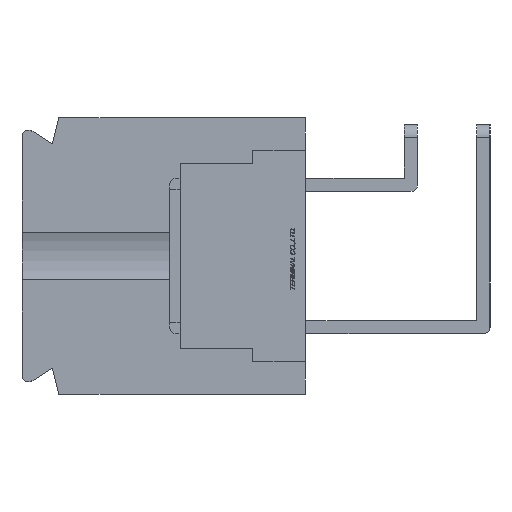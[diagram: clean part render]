
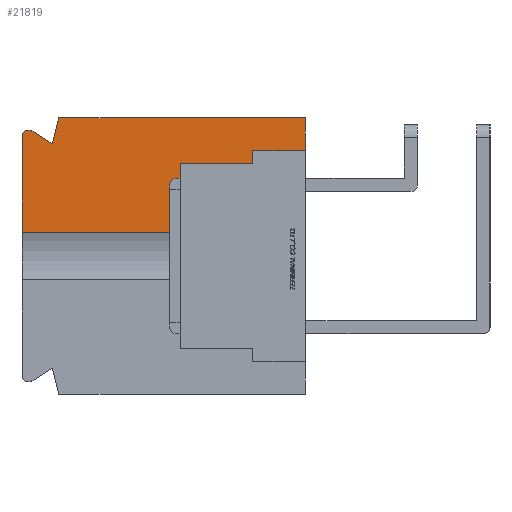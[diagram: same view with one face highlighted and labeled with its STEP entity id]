
A CAD part, left-side view. The second image highlights one B-rep face of the part: STEP entity #21819.
In plain terms, the highlighted planar face has unit normal (-1, 0, 0).
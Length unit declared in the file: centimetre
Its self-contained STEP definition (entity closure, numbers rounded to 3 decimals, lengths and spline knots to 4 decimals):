
#1005=CIRCLE('',#36627,0.05);
#1287=VERTEX_POINT('',#28402);
#1288=VERTEX_POINT('',#28404);
#2460=VERTEX_POINT('',#32109);
#2461=VERTEX_POINT('',#32111);
#2466=VERTEX_POINT('',#32122);
#2468=VERTEX_POINT('',#32128);
#2470=VERTEX_POINT('',#32134);
#2471=VERTEX_POINT('',#32141);
#2472=VERTEX_POINT('',#32143);
#2473=VERTEX_POINT('',#32145);
#2474=VERTEX_POINT('',#32147);
#3540=VECTOR('',#23586,1.);
#4874=VECTOR('',#26358,1.);
#4879=VECTOR('',#26372,1.);
#4882=VECTOR('',#26376,1.);
#4885=VECTOR('',#26380,1.);
#4886=VECTOR('',#26382,1.);
#4887=VECTOR('',#26383,1.);
#4888=VECTOR('',#26384,1.);
#4889=VECTOR('',#26385,1.);
#4890=VECTOR('',#26386,1.);
#6107=LINE('',#28403,#3540);
#7441=LINE('',#32110,#4874);
#7446=LINE('',#32127,#4879);
#7449=LINE('',#32133,#4882);
#7452=LINE('',#32138,#4885);
#7453=LINE('',#32140,#4886);
#7454=LINE('',#32142,#4887);
#7455=LINE('',#32144,#4888);
#7456=LINE('',#32146,#4889);
#7457=LINE('',#32148,#4890);
#8718=EDGE_CURVE('',#1287,#1288,#6107,.T.);
#10489=EDGE_CURVE('',#2460,#2461,#7441,.T.);
#10496=EDGE_CURVE('',#2461,#2466,#1005,.T.);
#10499=EDGE_CURVE('',#2466,#2468,#7446,.T.);
#10502=EDGE_CURVE('',#2468,#2470,#7449,.T.);
#10505=EDGE_CURVE('',#2470,#1287,#7452,.T.);
#10506=EDGE_CURVE('',#2471,#1288,#7453,.T.);
#10507=EDGE_CURVE('',#2460,#2472,#7454,.T.);
#10508=EDGE_CURVE('',#2472,#2473,#7455,.T.);
#10509=EDGE_CURVE('',#2473,#2474,#7456,.T.);
#10510=EDGE_CURVE('',#2474,#2471,#7457,.T.);
#15804=ORIENTED_EDGE('',*,*,#10506,.T.);
#15805=ORIENTED_EDGE('',*,*,#8718,.F.);
#15806=ORIENTED_EDGE('',*,*,#10505,.F.);
#15807=ORIENTED_EDGE('',*,*,#10502,.F.);
#15808=ORIENTED_EDGE('',*,*,#10499,.F.);
#15809=ORIENTED_EDGE('',*,*,#10496,.F.);
#15810=ORIENTED_EDGE('',*,*,#10489,.F.);
#15811=ORIENTED_EDGE('',*,*,#10507,.T.);
#15812=ORIENTED_EDGE('',*,*,#10508,.T.);
#15813=ORIENTED_EDGE('',*,*,#10509,.T.);
#15814=ORIENTED_EDGE('',*,*,#10510,.T.);
#19190=EDGE_LOOP('',(#15804,#15805,#15806,#15807,#15808,#15809,#15810,#15811,
#15812,#15813,#15814));
#20548=FACE_BOUND('',#19190,.T.);
#21819=ADVANCED_FACE('',(#20548),#22840,.F.);
#22840=PLANE('',#36631);
#23586=DIRECTION('',(0.,0.,-1.));
#26358=DIRECTION('',(0.,0.,1.));
#26367=DIRECTION('',(1.,0.,0.));
#26368=DIRECTION('',(0.,0.,-0.05));
#26372=DIRECTION('',(0.,-0.844,-0.536));
#26376=DIRECTION('',(0.,-0.243,0.97));
#26380=DIRECTION('',(0.,-1.,0.));
#26381=DIRECTION('',(1.,0.,0.));
#26382=DIRECTION('',(0.,-1.,0.));
#26383=DIRECTION('',(0.,-1.,0.));
#26384=DIRECTION('',(0.,0.,1.));
#26385=DIRECTION('',(0.,-1.,0.));
#26386=DIRECTION('',(0.,0.,1.));
#28402=CARTESIAN_POINT('',(-1.1,0.,1.05));
#28403=CARTESIAN_POINT('',(-1.1,0.,1.05));
#28404=CARTESIAN_POINT('',(-1.1,0.,0.8));
#32109=CARTESIAN_POINT('',(-1.1,2.15,0.1809));
#32110=CARTESIAN_POINT('',(-1.1,2.15,-0.905));
#32111=CARTESIAN_POINT('',(-1.1,2.15,0.905));
#32121=CARTESIAN_POINT('',(-1.1,2.1,0.905));
#32122=CARTESIAN_POINT('',(-1.1,2.0742,0.9478));
#32127=CARTESIAN_POINT('',(-1.1,2.0742,0.9478));
#32128=CARTESIAN_POINT('',(-1.1,1.92,0.85));
#32133=CARTESIAN_POINT('',(-1.1,1.92,0.85));
#32134=CARTESIAN_POINT('',(-1.1,1.87,1.05));
#32138=CARTESIAN_POINT('',(-1.1,1.87,1.05));
#32139=CARTESIAN_POINT('',(-1.1,1.082,0.));
#32140=CARTESIAN_POINT('',(-1.1,0.641,0.8));
#32141=CARTESIAN_POINT('',(-1.1,0.4,0.8));
#32142=CARTESIAN_POINT('',(-1.1,1.55,0.1809));
#32143=CARTESIAN_POINT('',(-1.1,0.95,0.1809));
#32144=CARTESIAN_POINT('',(-1.1,0.95,0.));
#32145=CARTESIAN_POINT('',(-1.1,0.95,0.7));
#32146=CARTESIAN_POINT('',(-1.1,0.8785,0.7));
#32147=CARTESIAN_POINT('',(-1.1,0.4,0.7));
#32148=CARTESIAN_POINT('',(-1.1,0.4,0.375));
#36627=AXIS2_PLACEMENT_3D('',#32121,#26367,#26368);
#36631=AXIS2_PLACEMENT_3D('',#32139,#26381,$);
